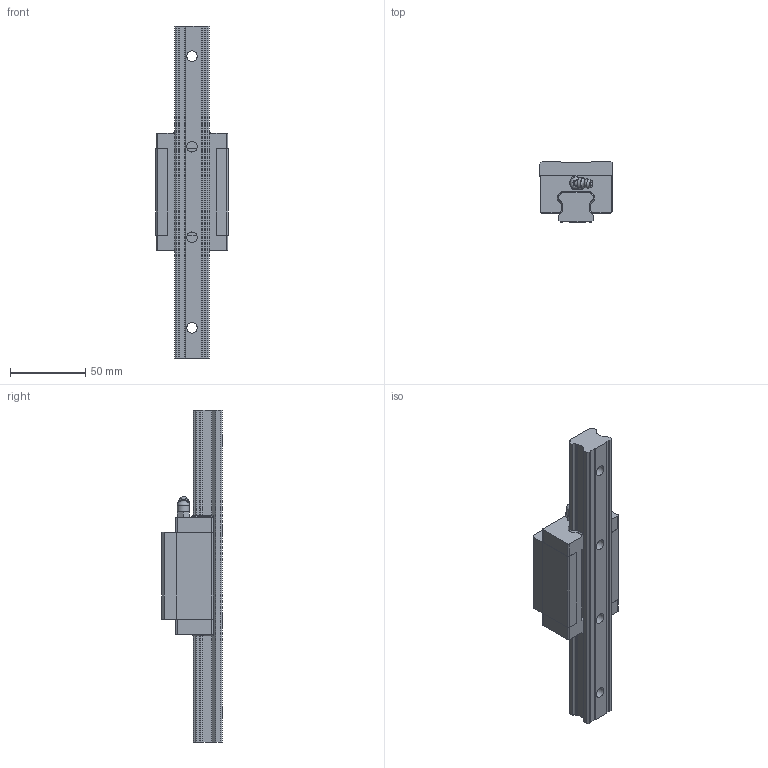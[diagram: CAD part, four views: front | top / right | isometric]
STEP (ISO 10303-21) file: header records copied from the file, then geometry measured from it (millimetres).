
FILE_DESCRIPTION((''),'2;1');
FILE_NAME('D:\製品 (図面)\カタログ用3D\変換ファイル\OZAK_3D-CAD(STEP形式)\Part2.-Linear Guides_ﾘﾆｱｶﾞｲﾄﾞ\07_Eco Guides_ｴｺｶﾞｲﾄﾞ\EGH\EGH25.stp','2010-12-22T11:12:05',('Tsuchiya'),(''),'Autodesk Inventor 10','Autodesk Inventor 10','');
FILE_SCHEMA(('AUTOMOTIVE_DESIGN { 1 0 10303 214 1 1 1 1 }'));
Length unit declared in the file: millimetre
Products named in the file (3): EGH25; EGH251; EGH252
Assembly tree (2 placements, depth 2):
  EGH25
    EGH251
    EGH252
Bounding box: 48 x 40 x 220 mm (x, y, z)
Volume: 173446.7 mm3; surface area: 40882.3 mm2
Topology: 2 solids, 3 shells, 239 faces, 629 edges, 408 vertices
Faces by surface type: plane 163, cylinder 60, cone 12, bspline 2, torus 1, sphere 1
Full cylindrical faces by diameter (mm): 5 x4, 6 x7, 7 x4, 7.75 x1, 8 x1, 11 x4
Entity records: 7283 total; most frequent: CARTESIAN_POINT 1397, DIRECTION 1198, ORIENTED_EDGE 1170, EDGE_CURVE 585, VECTOR 438, LINE 438, VERTEX_POINT 398, AXIS2_PLACEMENT_3D 380
